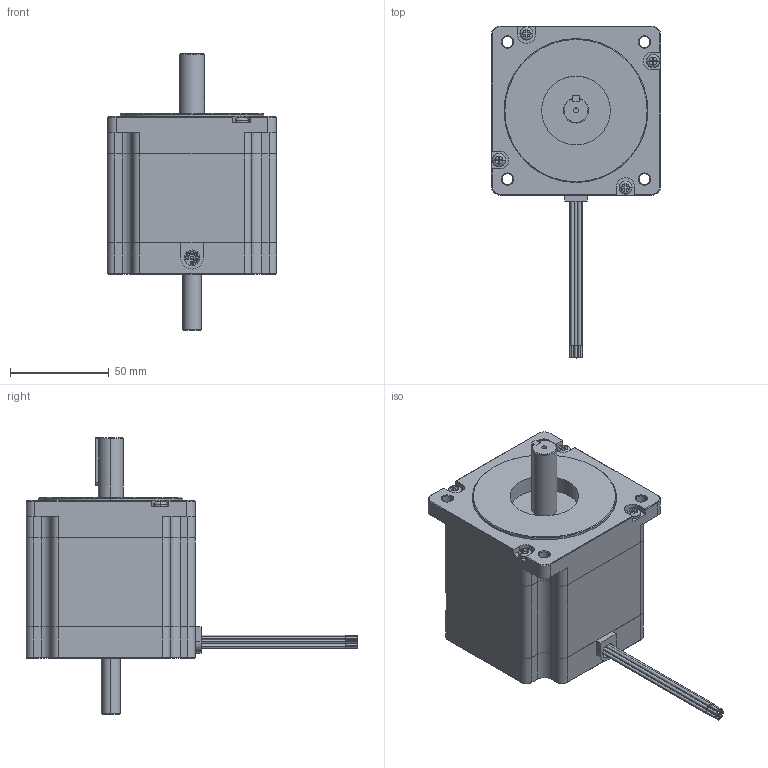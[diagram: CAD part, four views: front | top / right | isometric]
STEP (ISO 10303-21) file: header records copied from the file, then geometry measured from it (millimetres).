
FILE_DESCRIPTION (( 'STEP AP214' ), '1' );
FILE_NAME ('34Y108D-LW8.STEP', '2010-06-09T18:38:53', ( 'Tim Raines' ), ( 'Anaheim Automation' ), 'SwSTEP 2.0', 'SolidWorks 2010', '' );
FILE_SCHEMA (( 'AUTOMOTIVE_DESIGN' ));
Length unit declared in the file: inch
Products named in the file (1): 34Y108D-LW8
Bounding box: 85.85 x 168.4 x 140.21 mm (x, y, z)
Volume: 544194.6 mm3; surface area: 49850.9 mm2
Topology: 1 solids, 1 shells, 378 faces, 949 edges, 598 vertices
Faces by surface type: plane 178, cylinder 129, cone 63, torus 8
Entity records: 16151 total; most frequent: CARTESIAN_POINT 2207, DIRECTION 1965, ORIENTED_EDGE 1874, EDGE_CURVE 937, AXIS2_PLACEMENT_3D 710, VERTEX_POINT 598, LINE 545, VECTOR 545
